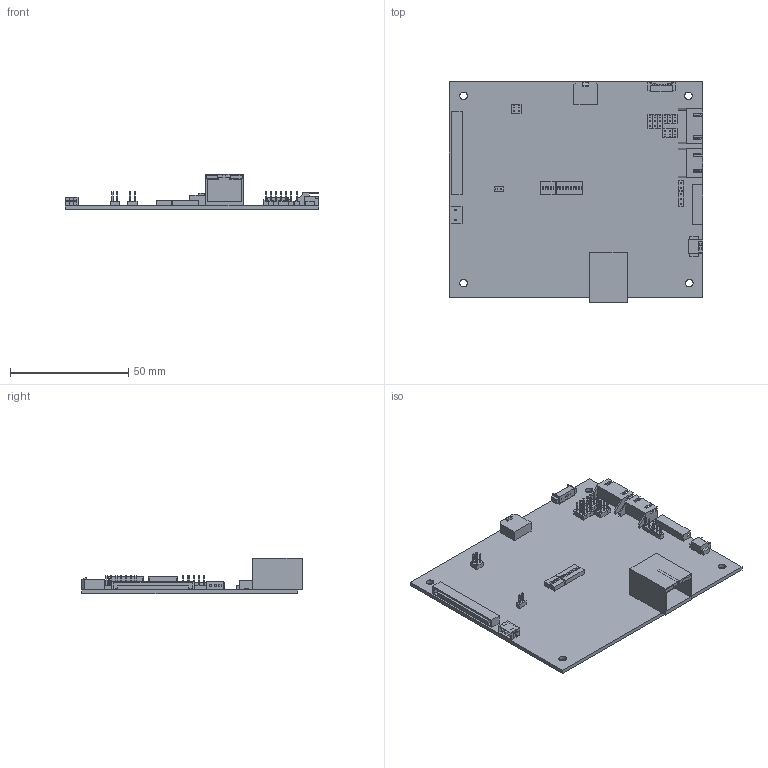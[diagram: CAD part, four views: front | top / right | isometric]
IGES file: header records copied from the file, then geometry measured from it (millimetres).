
Start section: SolidWorks IGES file using analytic representation for surfaces
Global section: file name: C:\Documents and Settings\jojocheung\Desktop\jojo\DD-1920-HDBI drawing\New DD-1920-HDBI-3D drawing\DD-1920-HDBT.IGS; native system: SolidWorks 2011; preprocessor: SolidWorks 2011; author: jojocheung; date: 160729.111718; units: millimetre
Bounding box: 107.44 x 93.44 x 15.15 mm (x, y, z)
Surface area: 28014 mm2 (no closed solid volume)
Topology: 0 solids, 0 shells, 821 faces, 4280 edges, 4280 vertices
Faces by surface type: bspline 813, revolution 8
